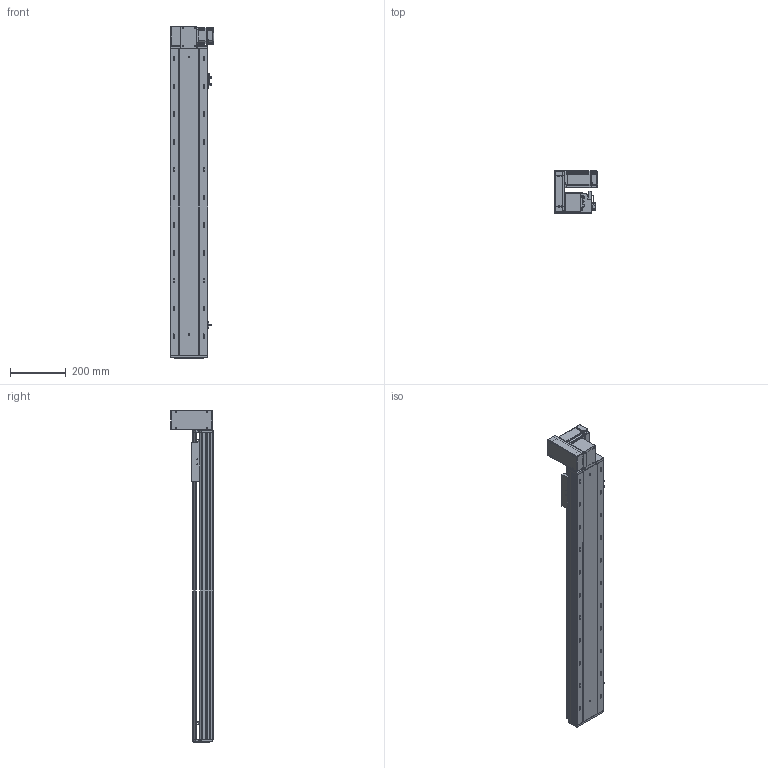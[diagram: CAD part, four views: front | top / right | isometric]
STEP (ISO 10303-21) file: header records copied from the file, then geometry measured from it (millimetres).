
FILE_DESCRIPTION (( 'STEP AP203' ), '1' );
FILE_NAME ('RY140-T-300-UL.SLDASM_850.step', '2021-03-01T07:43:37', ( '盈信电脑' ), ( '东莞市道滘镇水果街19号' ), 'SwSTEP 2.0', 'SolidWorks 2012', '' );
FILE_SCHEMA (( 'CONFIG_CONTROL_DESIGN' ));
Length unit declared in the file: millimetre
Products named in the file (18): RY140-T翋肮謫裔啣; 滅袉蝶18-10; RY140-T-300-UL.SLDASM_850; RY120-T主同步轮轴承压盖; RY140-T萇儂欶; RY120-T蹟翐M4; 侂狟400W侜督萇儂; RY120-T肮祭湍揤踡輸1; RY140-T翋肮祭謫盓傅釱; 15; RY140-T萇儂假蚾啣; RY120外置感应片(140共用）; RY120-T肮祭湍揤踡輸2; 覜茼ん672; RY140-T-300-DL倰第菁釱_850; RY140綴裔啣; RY140肮祭謫臏賑輸; RY140-T-300-DL倰第奻裔啣_850
Assembly tree (23 placements, depth 3):
  RY140-T-300-UL.SLDASM_850
    RY140-T-300-DL倰第菁釱_850
    RY140肮祭謫臏賑輸
    RY140-T-300-DL倰第奻裔啣_850
    RY140綴裔啣
    覜茼ん672  x3
    RY120外置感应片(140共用）
    RY120-T肮祭湍揤踡輸2
    RY120-T肮祭湍揤踡輸1
    RY140-T翋肮祭謫盓傅釱
    RY140-T萇儂假蚾啣
    侂狟400W侜督萇儂
      15
    RY120-T主同步轮轴承压盖
    RY120-T蹟翐M4  x4
    RY140-T萇儂欶
    滅袉蝶18-10  x2
    RY140-T翋肮謫裔啣
Bounding box: 157 x 152.5 x 1196 mm (x, y, z)
Volume: 3631406.8 mm3; surface area: 1378908.4 mm2
Topology: 22 solids, 22 shells, 2711 faces, 7477 edges, 4808 vertices
Faces by surface type: plane 1381, cylinder 1020, cone 210, bspline 100
Entity records: 86511 total; most frequent: CARTESIAN_POINT 21289, ORIENTED_EDGE 13458, DIRECTION 12705, EDGE_CURVE 6729, VERTEX_POINT 4407, VECTOR 4257, LINE 4257, AXIS2_PLACEMENT_3D 4224
